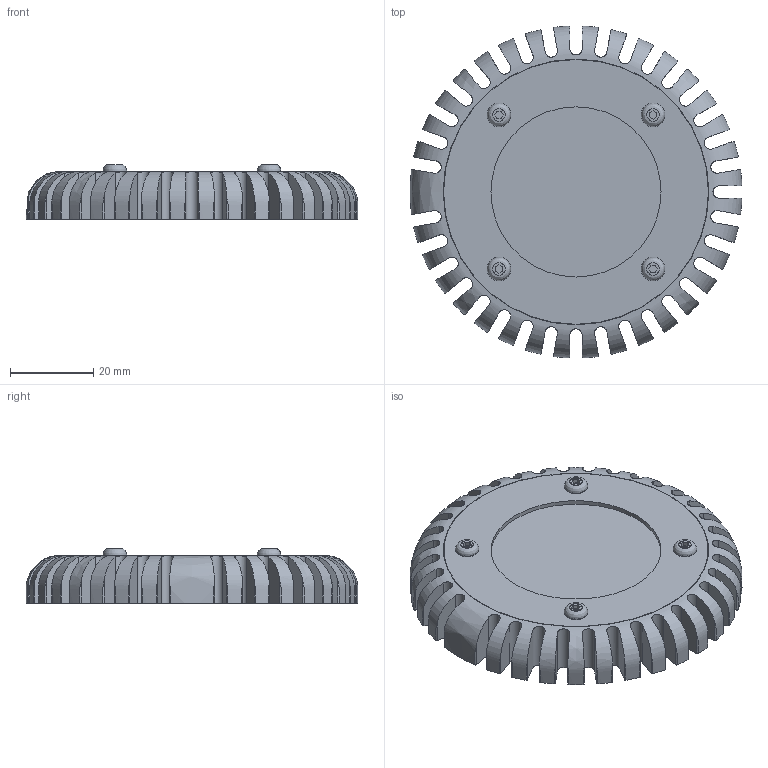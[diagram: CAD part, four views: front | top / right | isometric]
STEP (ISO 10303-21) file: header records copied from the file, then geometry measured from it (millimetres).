
FILE_DESCRIPTION(/* description */ (''),/* implementation_level */ '2;1');
FILE_NAME(/* name */ 'C:/Users/elena/Desktop/Rotonda CC35.step',/* time_stamp */ '2020-06-18T12:16:55+02:00',/* author */ (''),/* organization */ (''),/* preprocessor_version */ 'ST-DEVELOPER v18.1',/* originating_system */ 'Autodesk Translation Framework v9.3.0.1241',/* authorisation */ '');
FILE_SCHEMA (('AUTOMOTIVE_DESIGN { 1 0 10303 214 3 1 1 }'));
Length unit declared in the file: millimetre
Products named in the file (1): (Unsaved)
Bounding box: 79.92 x 79.92 x 13.15 mm (x, y, z)
Volume: 39639.8 mm3; surface area: 24948.4 mm2
Topology: 8 solids, 9 shells, 320 faces, 909 edges, 623 vertices
Faces by surface type: plane 176, cylinder 97, bspline 44, torus 2, cone 1
Full cylindrical faces by diameter (mm): 2.8 x4, 3 x8, 3.1 x4, 7 x3, 41 x1, 41.934 x1, 44 x1, 63.8 x1, 64 x1
Entity records: 15708 total; most frequent: CARTESIAN_POINT 7455, ORIENTED_EDGE 1826, DIRECTION 1571, EDGE_CURVE 913, VERTEX_POINT 628, AXIS2_PLACEMENT_3D 541, LINE 489, VECTOR 489
